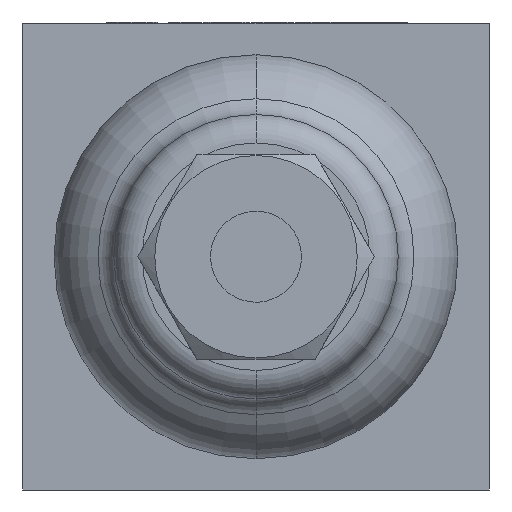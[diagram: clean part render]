
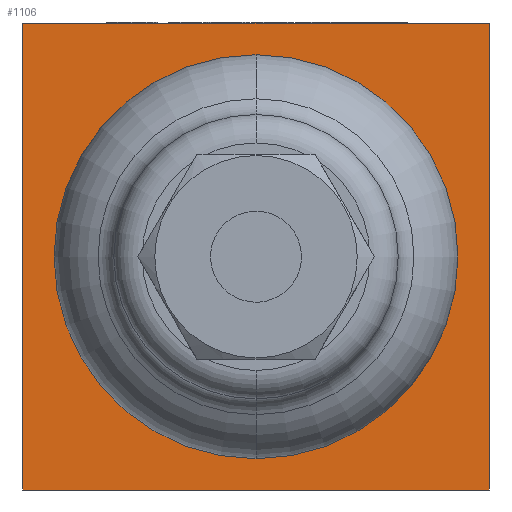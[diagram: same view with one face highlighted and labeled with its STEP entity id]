
A CAD part, front view. The second image highlights one B-rep face of the part: STEP entity #1106.
In plain terms, the highlighted planar face has unit normal (0, -1, 0).
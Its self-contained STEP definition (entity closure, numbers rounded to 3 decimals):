
#158 = VECTOR ( 'NONE', #3061, 1000. ) ;
#320 = VERTEX_POINT ( 'NONE', #4550 ) ;
#395 = VECTOR ( 'NONE', #6148, 1000. ) ;
#488 = DIRECTION ( 'NONE',  ( 0., 0., 1. ) ) ;
#564 = LINE ( 'NONE', #2707, #2005 ) ;
#579 = CARTESIAN_POINT ( 'NONE',  ( -20.5, -20.5, -20.5 ) ) ;
#735 = ORIENTED_EDGE ( 'NONE', *, *, #2830, .T. ) ;
#964 = LINE ( 'NONE', #2444, #395 ) ;
#994 = DIRECTION ( 'NONE',  ( 0., 1., 0. ) ) ;
#1106 = ADVANCED_FACE ( 'NONE', ( #6041 ), #5120, .F. ) ;
#1203 = DIRECTION ( 'NONE',  ( 0., 0., -1. ) ) ;
#2005 = VECTOR ( 'NONE', #1203, 1000. ) ;
#2048 = VERTEX_POINT ( 'NONE', #2708 ) ;
#2109 = ORIENTED_EDGE ( 'NONE', *, *, #6430, .F. ) ;
#2444 = CARTESIAN_POINT ( 'NONE',  ( -20.5, -20.5, 20.5 ) ) ;
#2472 = EDGE_LOOP ( 'NONE', ( #735, #3348, #2109, #3112 ) ) ;
#2544 = CARTESIAN_POINT ( 'NONE',  ( -20.5, -20.5, 20.5 ) ) ;
#2707 = CARTESIAN_POINT ( 'NONE',  ( 20.5, -20.5, 20.5 ) ) ;
#2708 = CARTESIAN_POINT ( 'NONE',  ( 20.5, -20.5, -20.5 ) ) ;
#2830 = EDGE_CURVE ( 'NONE', #5711, #2048, #6696, .T. ) ;
#2884 = CARTESIAN_POINT ( 'NONE',  ( -20.5, -20.5, 20.5 ) ) ;
#3061 = DIRECTION ( 'NONE',  ( 0., 0., -1. ) ) ;
#3112 = ORIENTED_EDGE ( 'NONE', *, *, #6339, .T. ) ;
#3348 = ORIENTED_EDGE ( 'NONE', *, *, #5335, .F. ) ;
#3460 = CARTESIAN_POINT ( 'NONE',  ( 20.5, -20.5, 20.5 ) ) ;
#3479 = VERTEX_POINT ( 'NONE', #3460 ) ;
#3920 = VECTOR ( 'NONE', #5249, 1000. ) ;
#4145 = AXIS2_PLACEMENT_3D ( 'NONE', #2544, #994, #488 ) ;
#4402 = CARTESIAN_POINT ( 'NONE',  ( -20.5, -20.5, -20.5 ) ) ;
#4550 = CARTESIAN_POINT ( 'NONE',  ( -20.5, -20.5, 20.5 ) ) ;
#5120 = PLANE ( 'NONE',  #4145 ) ;
#5249 = DIRECTION ( 'NONE',  ( 1., 0., 0. ) ) ;
#5335 = EDGE_CURVE ( 'NONE', #3479, #2048, #564, .T. ) ;
#5603 = LINE ( 'NONE', #2884, #158 ) ;
#5711 = VERTEX_POINT ( 'NONE', #4402 ) ;
#6041 = FACE_OUTER_BOUND ( 'NONE', #2472, .T. ) ;
#6148 = DIRECTION ( 'NONE',  ( 1., 0., 0. ) ) ;
#6339 = EDGE_CURVE ( 'NONE', #320, #5711, #5603, .T. ) ;
#6430 = EDGE_CURVE ( 'NONE', #320, #3479, #964, .T. ) ;
#6696 = LINE ( 'NONE', #579, #3920 ) ;
